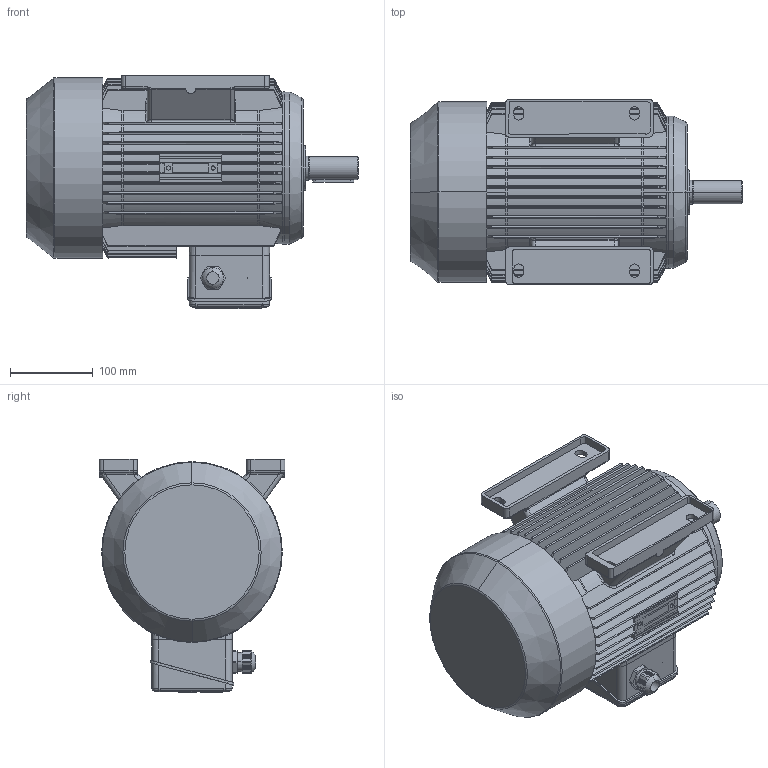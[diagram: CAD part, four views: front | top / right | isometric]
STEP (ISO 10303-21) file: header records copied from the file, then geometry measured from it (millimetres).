
FILE_DESCRIPTION (( 'STEP AP214' ), '1' );
FILE_NAME ('MAP112M4A IM1041.STEP', '2020-12-23T12:58:25', ( '' ), ( '' ), 'SwSTEP 2.0', 'SolidWorks 2018', '' );
FILE_SCHEMA (( 'AUTOMOTIVE_DESIGN' ));
Length unit declared in the file: millimetre
Products named in the file (1): MAP112M4A IM1041
Bounding box: 401.5 x 224.5 x 282 mm (x, y, z)
Volume: 10700084.2 mm3; surface area: 780762.5 mm2
Topology: 3 solids, 8 shells, 1320 faces, 3509 edges, 2241 vertices
Faces by surface type: plane 545, cylinder 286, bspline 201, cone 145, torus 141, sphere 2
Entity records: 54104 total; most frequent: CARTESIAN_POINT 23609, ORIENTED_EDGE 7006, DIRECTION 5490, EDGE_CURVE 3503, VERTEX_POINT 2241, AXIS2_PLACEMENT_3D 1966, LINE 1558, VECTOR 1558
